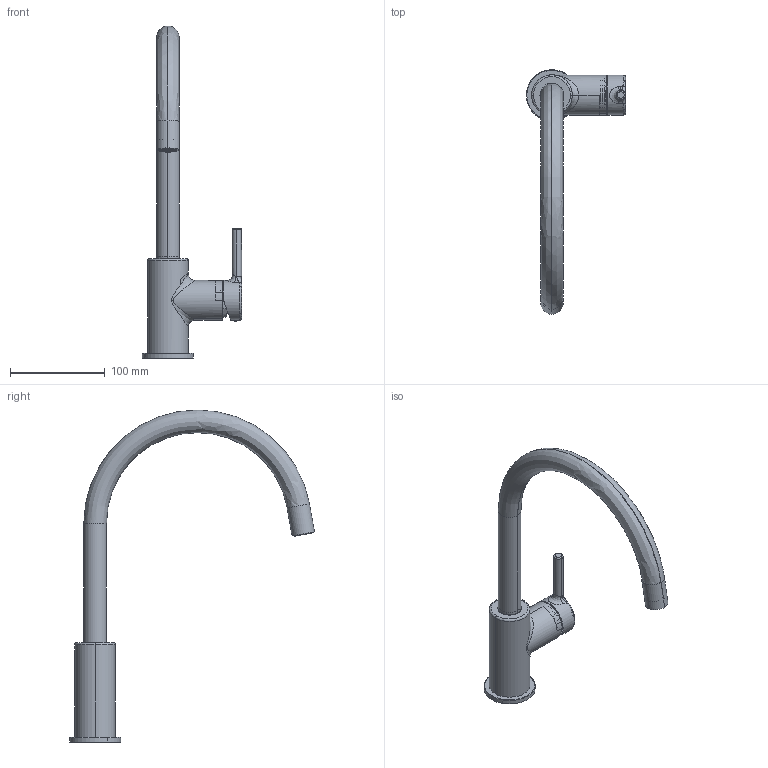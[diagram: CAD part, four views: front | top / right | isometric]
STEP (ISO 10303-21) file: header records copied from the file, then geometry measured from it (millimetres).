
FILE_DESCRIPTION(/* description */ (''),/* implementation_level */ '2;1');
FILE_NAME(/* name */ '3D001_Taps_Lina_J-Swivel-XL-Colors',/* time_stamp */ '2026-08-06T11:34:26+02:00',/* author */ (''),/* organization */ (''),/* preprocessor_version */ 'ST-DEVELOPER v19.2',/* originating_system */ 'Rhino 8.31',/* authorisation */ '');
FILE_SCHEMA (('CONFIG_CONTROL_DESIGN'));
Length unit declared in the file: millimetre
Products named in the file (5): Document; B26-FRANK-003; B10-3042X01-04DDA_ASM; B10-3042X01-00DDA_1_; B10-3037A01-97DDA-3
Bounding box: 104.95 x 258.81 x 351 mm (x, y, z)
Volume: 111512.7 mm3; surface area: 135141.5 mm2
Topology: 14 solids, 15 shells, 2070 faces, 4687 edges, 2691 vertices
Faces by surface type: plane 1091, cylinder 828, bspline 151
Entity records: 63288 total; most frequent: CARTESIAN_POINT 27641, ORIENTED_EDGE 9368, EDGE_CURVE 4685, B_SPLINE_CURVE_WITH_KNOTS 3485, DIRECTION 3055, VERTEX_POINT 2691, AXIS2_PLACEMENT_3D 2487, EDGE_LOOP 2147
